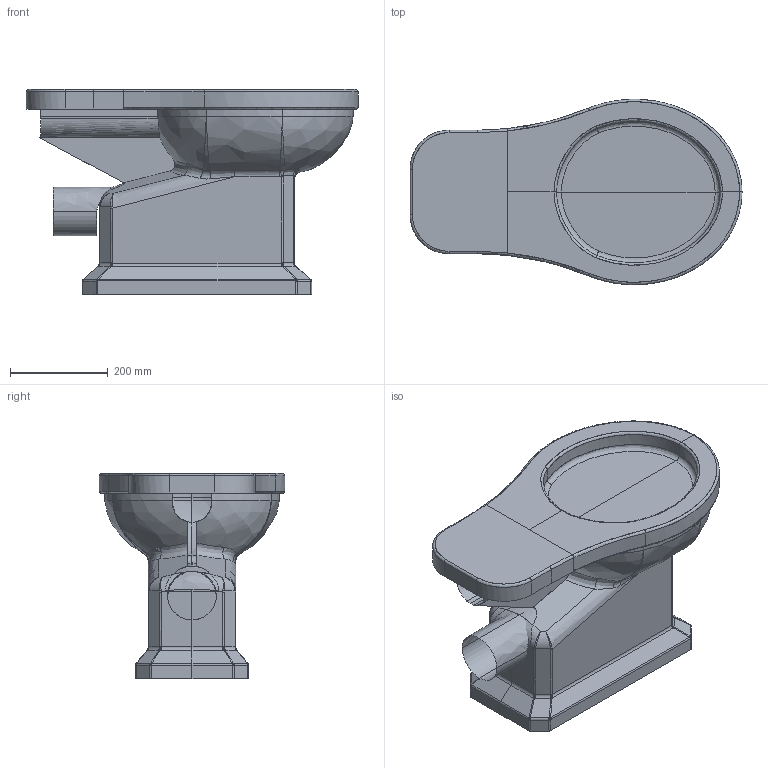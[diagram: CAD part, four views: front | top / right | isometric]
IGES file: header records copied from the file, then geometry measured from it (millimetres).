
Start section: START RECORD GO HERE.
Global section: file name: Art. 8427 MB Ethos PARETE.igs; native system: IBM CATIA IGES - CATIA Version 5 Release 17 ; preprocessor: CATIA Version 5 Release 17 ; author: Luca; organization: PC-Luca; date: 20131213.172352; units: millimetre
Bounding box: 680 x 379.96 x 420 mm (x, y, z)
Surface area: 972012.9 mm2 (no closed solid volume)
Topology: 0 solids, 0 shells, 244 faces, 1102 edges, 1082 vertices
Faces by surface type: bspline 244
